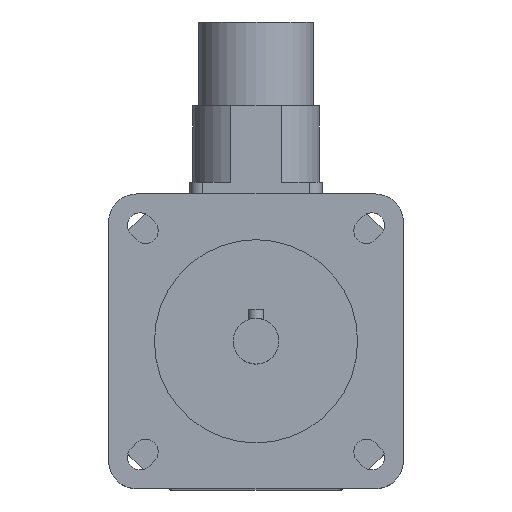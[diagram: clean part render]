
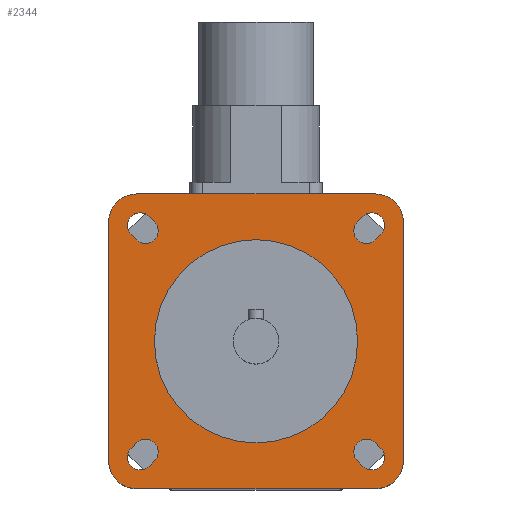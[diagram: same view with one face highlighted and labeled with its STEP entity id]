
A CAD part, top view. The second image highlights one B-rep face of the part: STEP entity #2344.
In plain terms, the highlighted planar face has unit normal (0, 0, 1).
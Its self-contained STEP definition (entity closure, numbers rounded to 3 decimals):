
#28=FACE_BOUND('',#421,.T.);
#29=FACE_BOUND('',#422,.T.);
#30=FACE_BOUND('',#423,.T.);
#31=FACE_BOUND('',#424,.T.);
#32=FACE_BOUND('',#425,.T.);
#46=CIRCLE('',#2435,20.);
#83=CIRCLE('',#2499,2.5);
#87=CIRCLE('',#2506,2.5);
#88=CIRCLE('',#2509,2.5);
#89=CIRCLE('',#2512,2.5);
#99=CIRCLE('',#2527,2.5);
#100=CIRCLE('',#2530,2.5);
#101=CIRCLE('',#2533,2.5);
#102=CIRCLE('',#2536,2.5);
#103=CIRCLE('',#2538,5.5);
#104=CIRCLE('',#2540,5.5);
#105=CIRCLE('',#2542,5.5);
#106=CIRCLE('',#2544,5.5);
#281=FACE_OUTER_BOUND('',#420,.T.);
#420=EDGE_LOOP('',(#1806,#1807,#1808,#1809,#1810,#1811,#1812,#1813));
#421=EDGE_LOOP('',(#1814));
#422=EDGE_LOOP('',(#1815,#1816,#1817,#1818));
#423=EDGE_LOOP('',(#1819,#1820,#1821,#1822));
#424=EDGE_LOOP('',(#1823,#1824,#1825,#1826));
#425=EDGE_LOOP('',(#1827,#1828,#1829,#1830));
#564=LINE('',#3642,#783);
#572=LINE('',#3666,#791);
#576=LINE('',#3676,#795);
#580=LINE('',#3686,#799);
#596=LINE('',#3737,#815);
#598=LINE('',#3743,#817);
#600=LINE('',#3749,#819);
#602=LINE('',#3755,#821);
#611=LINE('',#3783,#830);
#612=LINE('',#3784,#831);
#613=LINE('',#3785,#832);
#614=LINE('',#3786,#833);
#783=VECTOR('',#2885,1.5);
#791=VECTOR('',#2907,1.5);
#795=VECTOR('',#2917,1.5);
#799=VECTOR('',#2927,1.5);
#815=VECTOR('',#2973,1.5);
#817=VECTOR('',#2981,1.5);
#819=VECTOR('',#2989,1.5);
#821=VECTOR('',#2997,1.5);
#830=VECTOR('',#3028,47.);
#831=VECTOR('',#3029,47.);
#832=VECTOR('',#3030,47.);
#833=VECTOR('',#3031,47.);
#956=VERTEX_POINT('',#3463);
#1021=VERTEX_POINT('',#3639);
#1022=VERTEX_POINT('',#3641);
#1023=VERTEX_POINT('',#3645);
#1030=VERTEX_POINT('',#3663);
#1031=VERTEX_POINT('',#3665);
#1032=VERTEX_POINT('',#3669);
#1033=VERTEX_POINT('',#3673);
#1034=VERTEX_POINT('',#3675);
#1035=VERTEX_POINT('',#3679);
#1036=VERTEX_POINT('',#3683);
#1037=VERTEX_POINT('',#3685);
#1038=VERTEX_POINT('',#3689);
#1057=VERTEX_POINT('',#3735);
#1058=VERTEX_POINT('',#3741);
#1059=VERTEX_POINT('',#3747);
#1060=VERTEX_POINT('',#3753);
#1061=VERTEX_POINT('',#3759);
#1062=VERTEX_POINT('',#3761);
#1063=VERTEX_POINT('',#3765);
#1064=VERTEX_POINT('',#3767);
#1065=VERTEX_POINT('',#3771);
#1066=VERTEX_POINT('',#3773);
#1067=VERTEX_POINT('',#3777);
#1068=VERTEX_POINT('',#3779);
#1190=EDGE_CURVE('',#956,#956,#46,.T.);
#1276=EDGE_CURVE('',#1022,#1021,#564,.T.);
#1279=EDGE_CURVE('',#1021,#1023,#83,.T.);
#1288=EDGE_CURVE('',#1031,#1030,#572,.T.);
#1291=EDGE_CURVE('',#1030,#1032,#87,.T.);
#1293=EDGE_CURVE('',#1034,#1033,#576,.T.);
#1296=EDGE_CURVE('',#1033,#1035,#88,.T.);
#1298=EDGE_CURVE('',#1037,#1036,#580,.T.);
#1301=EDGE_CURVE('',#1036,#1038,#89,.T.);
#1324=EDGE_CURVE('',#1035,#1057,#596,.T.);
#1325=EDGE_CURVE('',#1057,#1034,#99,.T.);
#1327=EDGE_CURVE('',#1032,#1058,#598,.T.);
#1328=EDGE_CURVE('',#1058,#1031,#100,.T.);
#1330=EDGE_CURVE('',#1038,#1059,#600,.T.);
#1331=EDGE_CURVE('',#1059,#1037,#101,.T.);
#1333=EDGE_CURVE('',#1023,#1060,#602,.T.);
#1334=EDGE_CURVE('',#1060,#1022,#102,.T.);
#1336=EDGE_CURVE('',#1062,#1061,#103,.T.);
#1339=EDGE_CURVE('',#1064,#1063,#104,.T.);
#1342=EDGE_CURVE('',#1066,#1065,#105,.T.);
#1345=EDGE_CURVE('',#1068,#1067,#106,.T.);
#1347=EDGE_CURVE('',#1061,#1068,#611,.T.);
#1348=EDGE_CURVE('',#1067,#1066,#612,.T.);
#1349=EDGE_CURVE('',#1065,#1064,#613,.T.);
#1350=EDGE_CURVE('',#1063,#1062,#614,.T.);
#1806=ORIENTED_EDGE('',*,*,#1347,.T.);
#1807=ORIENTED_EDGE('',*,*,#1345,.T.);
#1808=ORIENTED_EDGE('',*,*,#1348,.T.);
#1809=ORIENTED_EDGE('',*,*,#1342,.T.);
#1810=ORIENTED_EDGE('',*,*,#1349,.T.);
#1811=ORIENTED_EDGE('',*,*,#1339,.T.);
#1812=ORIENTED_EDGE('',*,*,#1350,.T.);
#1813=ORIENTED_EDGE('',*,*,#1336,.T.);
#1814=ORIENTED_EDGE('',*,*,#1190,.T.);
#1815=ORIENTED_EDGE('',*,*,#1324,.T.);
#1816=ORIENTED_EDGE('',*,*,#1325,.T.);
#1817=ORIENTED_EDGE('',*,*,#1293,.T.);
#1818=ORIENTED_EDGE('',*,*,#1296,.T.);
#1819=ORIENTED_EDGE('',*,*,#1327,.T.);
#1820=ORIENTED_EDGE('',*,*,#1328,.T.);
#1821=ORIENTED_EDGE('',*,*,#1288,.T.);
#1822=ORIENTED_EDGE('',*,*,#1291,.T.);
#1823=ORIENTED_EDGE('',*,*,#1330,.T.);
#1824=ORIENTED_EDGE('',*,*,#1331,.T.);
#1825=ORIENTED_EDGE('',*,*,#1298,.T.);
#1826=ORIENTED_EDGE('',*,*,#1301,.T.);
#1827=ORIENTED_EDGE('',*,*,#1333,.T.);
#1828=ORIENTED_EDGE('',*,*,#1334,.T.);
#1829=ORIENTED_EDGE('',*,*,#1276,.T.);
#1830=ORIENTED_EDGE('',*,*,#1279,.T.);
#2248=PLANE('',#2545);
#2344=ADVANCED_FACE('',(#281,#28,#29,#30,#31,#32),#2248,.T.);
#2435=AXIS2_PLACEMENT_3D('',#3464,#2710,#2711);
#2499=AXIS2_PLACEMENT_3D('',#3647,#2890,#2891);
#2506=AXIS2_PLACEMENT_3D('',#3671,#2912,#2913);
#2509=AXIS2_PLACEMENT_3D('',#3681,#2922,#2923);
#2512=AXIS2_PLACEMENT_3D('',#3691,#2932,#2933);
#2527=AXIS2_PLACEMENT_3D('',#3739,#2976,#2977);
#2530=AXIS2_PLACEMENT_3D('',#3745,#2984,#2985);
#2533=AXIS2_PLACEMENT_3D('',#3751,#2992,#2993);
#2536=AXIS2_PLACEMENT_3D('',#3757,#3000,#3001);
#2538=AXIS2_PLACEMENT_3D('',#3762,#3005,#3006);
#2540=AXIS2_PLACEMENT_3D('',#3768,#3011,#3012);
#2542=AXIS2_PLACEMENT_3D('',#3774,#3017,#3018);
#2544=AXIS2_PLACEMENT_3D('',#3780,#3023,#3024);
#2545=AXIS2_PLACEMENT_3D('',#3782,#3026,#3027);
#2710=DIRECTION('center_axis',(0.,0.,-1.));
#2711=DIRECTION('ref_axis',(-1.,0.,0.));
#2885=DIRECTION('',(-0.707,-0.707,0.));
#2890=DIRECTION('center_axis',(0.,0.,-1.));
#2891=DIRECTION('ref_axis',(0.707,-0.707,0.));
#2907=DIRECTION('',(-0.707,0.707,0.));
#2912=DIRECTION('center_axis',(0.,0.,-1.));
#2913=DIRECTION('ref_axis',(-0.707,-0.707,0.));
#2917=DIRECTION('',(-0.707,-0.707,0.));
#2922=DIRECTION('center_axis',(0.,0.,-1.));
#2923=DIRECTION('ref_axis',(0.707,-0.707,0.));
#2927=DIRECTION('',(-0.707,0.707,0.));
#2932=DIRECTION('center_axis',(0.,0.,-1.));
#2933=DIRECTION('ref_axis',(-0.707,-0.707,0.));
#2973=DIRECTION('',(0.707,0.707,0.));
#2976=DIRECTION('center_axis',(0.,0.,-1.));
#2977=DIRECTION('ref_axis',(-0.707,0.707,0.));
#2981=DIRECTION('',(0.707,-0.707,0.));
#2984=DIRECTION('center_axis',(0.,0.,-1.));
#2985=DIRECTION('ref_axis',(0.707,0.707,0.));
#2989=DIRECTION('',(0.707,-0.707,0.));
#2992=DIRECTION('center_axis',(0.,0.,-1.));
#2993=DIRECTION('ref_axis',(0.707,0.707,0.));
#2997=DIRECTION('',(0.707,0.707,0.));
#3000=DIRECTION('center_axis',(0.,0.,-1.));
#3001=DIRECTION('ref_axis',(-0.707,0.707,0.));
#3005=DIRECTION('center_axis',(0.,0.,1.));
#3006=DIRECTION('ref_axis',(1.,0.,0.));
#3011=DIRECTION('center_axis',(0.,0.,1.));
#3012=DIRECTION('ref_axis',(0.,-1.,0.));
#3017=DIRECTION('center_axis',(0.,0.,1.));
#3018=DIRECTION('ref_axis',(-1.,0.,0.));
#3023=DIRECTION('center_axis',(0.,0.,1.));
#3024=DIRECTION('ref_axis',(0.,1.,0.));
#3026=DIRECTION('center_axis',(0.,0.,1.));
#3027=DIRECTION('ref_axis',(1.,0.,0.));
#3028=DIRECTION('',(-1.,0.,0.));
#3029=DIRECTION('',(0.,-1.,0.));
#3030=DIRECTION('',(1.,0.,0.));
#3031=DIRECTION('',(0.,1.,0.));
#3463=CARTESIAN_POINT('',(20.,0.,129.));
#3464=CARTESIAN_POINT('Origin',(0.,0.,129.));
#3639=CARTESIAN_POINT('',(-21.036,-24.572,129.));
#3641=CARTESIAN_POINT('',(-19.976,-23.511,129.));
#3642=CARTESIAN_POINT('',(-9.634,-13.17,129.));
#3645=CARTESIAN_POINT('',(-24.572,-21.036,129.));
#3647=CARTESIAN_POINT('Origin',(-22.804,-22.804,129.));
#3663=CARTESIAN_POINT('',(-24.572,21.036,129.));
#3665=CARTESIAN_POINT('',(-23.511,19.976,129.));
#3666=CARTESIAN_POINT('',(-13.17,9.634,129.));
#3669=CARTESIAN_POINT('',(-21.036,24.572,129.));
#3671=CARTESIAN_POINT('Origin',(-22.804,22.804,129.));
#3673=CARTESIAN_POINT('',(23.511,19.976,129.));
#3675=CARTESIAN_POINT('',(24.572,21.036,129.));
#3676=CARTESIAN_POINT('',(12.64,9.104,129.));
#3679=CARTESIAN_POINT('',(19.976,23.511,129.));
#3681=CARTESIAN_POINT('Origin',(21.744,21.744,129.));
#3683=CARTESIAN_POINT('',(19.976,-23.511,129.));
#3685=CARTESIAN_POINT('',(21.036,-24.572,129.));
#3686=CARTESIAN_POINT('',(9.104,-12.64,129.));
#3689=CARTESIAN_POINT('',(23.511,-19.976,129.));
#3691=CARTESIAN_POINT('Origin',(21.744,-21.744,129.));
#3735=CARTESIAN_POINT('',(21.036,24.572,129.));
#3737=CARTESIAN_POINT('',(9.634,13.17,129.));
#3739=CARTESIAN_POINT('Origin',(22.804,22.804,129.));
#3741=CARTESIAN_POINT('',(-19.976,23.511,129.));
#3743=CARTESIAN_POINT('',(-9.104,12.64,129.));
#3745=CARTESIAN_POINT('Origin',(-21.744,21.744,129.));
#3747=CARTESIAN_POINT('',(24.572,-21.036,129.));
#3749=CARTESIAN_POINT('',(13.17,-9.634,129.));
#3751=CARTESIAN_POINT('Origin',(22.804,-22.804,129.));
#3753=CARTESIAN_POINT('',(-23.511,-19.976,129.));
#3755=CARTESIAN_POINT('',(-12.64,-9.104,129.));
#3757=CARTESIAN_POINT('Origin',(-21.744,-21.744,129.));
#3759=CARTESIAN_POINT('',(23.5,29.,129.));
#3761=CARTESIAN_POINT('',(29.,23.5,129.));
#3762=CARTESIAN_POINT('Origin',(23.5,23.5,129.));
#3765=CARTESIAN_POINT('',(29.,-23.5,129.));
#3767=CARTESIAN_POINT('',(23.5,-29.,129.));
#3768=CARTESIAN_POINT('Origin',(23.5,-23.5,129.));
#3771=CARTESIAN_POINT('',(-23.5,-29.,129.));
#3773=CARTESIAN_POINT('',(-29.,-23.5,129.));
#3774=CARTESIAN_POINT('Origin',(-23.5,-23.5,129.));
#3777=CARTESIAN_POINT('',(-29.,23.5,129.));
#3779=CARTESIAN_POINT('',(-23.5,29.,129.));
#3780=CARTESIAN_POINT('Origin',(-23.5,23.5,129.));
#3782=CARTESIAN_POINT('Origin',(0.,0.,
129.));
#3783=CARTESIAN_POINT('',(23.5,29.,129.));
#3784=CARTESIAN_POINT('',(-29.,23.5,129.));
#3785=CARTESIAN_POINT('',(-23.5,-29.,129.));
#3786=CARTESIAN_POINT('',(29.,-23.5,129.));
